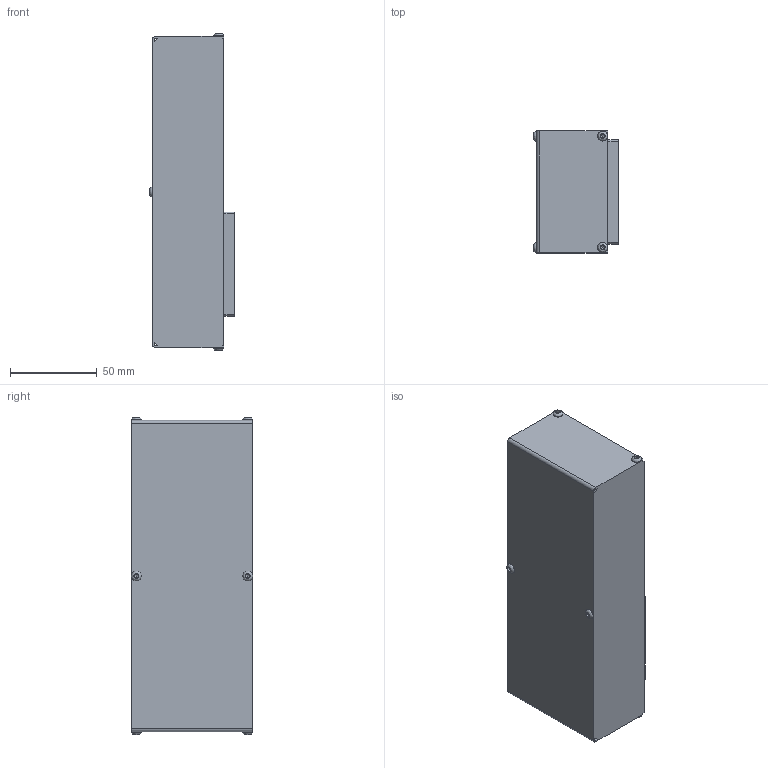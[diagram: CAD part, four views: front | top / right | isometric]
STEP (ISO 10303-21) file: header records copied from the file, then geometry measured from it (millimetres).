
FILE_DESCRIPTION(/* description */ (''),/* implementation_level */ '2;1');
FILE_NAME(/* name */ 'X:\VIRI ZA WEB\CAD DATOTEKE\LINEARNE ENOTE UNIMOTION\DODATNA OPREMA ZA LINEARNE ENOTE\STRANSKI POGONI\CTV-MTV\CTV 110-MTV 65\MSD CTV 110 T1 1 50\izvoz\CAD_71382.stp',/* time_stamp */ '2016-06-06T09:48:11+02:00',/* author */ ('Hypex'),/* organization */ ('Hypex'),/* preprocessor_version */ 'ST-DEVELOPER v16.1',/* originating_system */ 'Autodesk Inventor 2016',/* authorisation */ '');
FILE_SCHEMA (('AUTOMOTIVE_DESIGN { 1 0 10303 214 3 1 1 }'));
Length unit declared in the file: millimetre
Products named in the file (1): CAD_71382
Bounding box: 48.65 x 70 x 182.3 mm (x, y, z)
Volume: 513365.2 mm3; surface area: 57185.3 mm2
Topology: 1 solids, 13 shells, 233 faces, 598 edges, 388 vertices
Faces by surface type: plane 131, cylinder 68, cone 22, bspline 6, torus 6
Full cylindrical faces by diameter (mm): 2.459 x6, 3 x6, 4 x6, 4.2 x4, 5.2 x4, 5.7 x6, 6.2 x8, 8 x4, 25 x1, 35 x1
Entity records: 6725 total; most frequent: CARTESIAN_POINT 1294, DIRECTION 1082, ORIENTED_EDGE 960, EDGE_CURVE 478, AXIS2_PLACEMENT_3D 418, EDGE_LOOP 348, VERTEX_POINT 342, LINE 246
